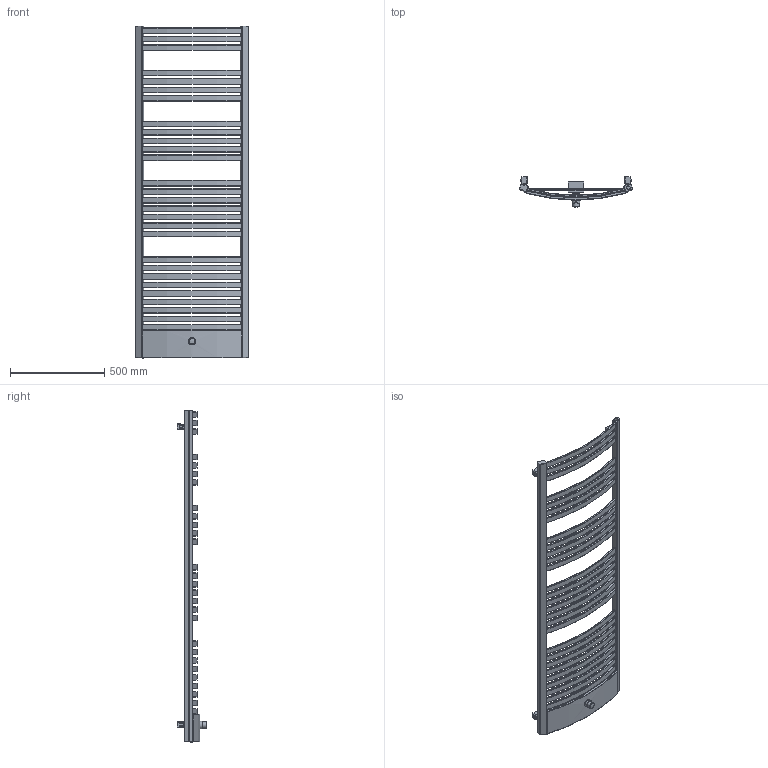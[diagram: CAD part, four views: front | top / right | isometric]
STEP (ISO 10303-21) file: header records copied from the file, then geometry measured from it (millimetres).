
FILE_DESCRIPTION((''),'2;1');
FILE_NAME('Z:\R\G\P\RGPH08 - Grzejnik Dexter pro\Work\Inventor\Dexter Pro v6.1\Marketing\STEP\DP-17-60-ZX.stp','2012-07-24T09:48:06',('PioRo'),(''),'Autodesk Inventor 2012','Autodesk Inventor 2012','');
FILE_SCHEMA(('AUTOMOTIVE_DESIGN { 1 0 10303 214 1 1 1 1 }'));
Length unit declared in the file: millimetre
Products named in the file (1): Część3
Bounding box: 599.87 x 158.22 x 1762 mm (x, y, z)
Volume: 9178099.7 mm3; surface area: 1932042.1 mm2
Topology: 1 solids, 4 shells, 679 faces, 1804 edges, 1154 vertices
Faces by surface type: plane 277, cylinder 212, torus 151, bspline 32, cone 5, sphere 2
Full cylindrical faces by diameter (mm): 7 x3, 18.631 x3, 32.4 x1, 33 x1, 34 x2, 35 x2, 36 x1, 36.4 x1, 36.6 x1, 37.2 x1, 40 x2
Entity records: 24608 total; most frequent: CARTESIAN_POINT 7341, ORIENTED_EDGE 3534, DIRECTION 3313, EDGE_CURVE 1767, AXIS2_PLACEMENT_3D 1230, VERTEX_POINT 1142, VECTOR 853, LINE 853
